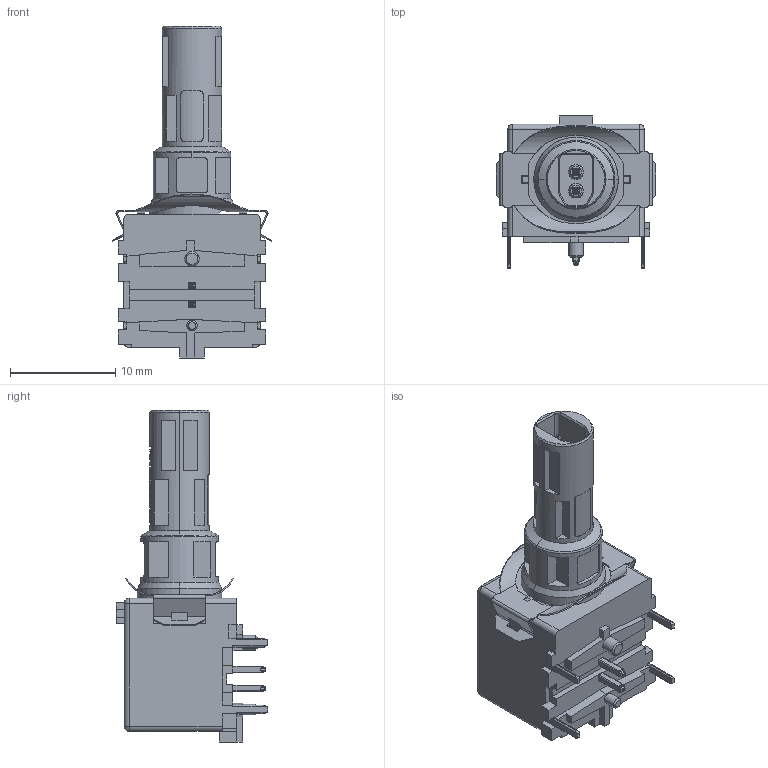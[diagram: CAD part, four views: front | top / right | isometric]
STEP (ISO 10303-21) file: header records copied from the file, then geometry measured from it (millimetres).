
FILE_DESCRIPTION(('Creo Elements/Direct Modeling STEP Export'),'2;1');
FILE_NAME('C:/Temp/JobServerData/JobServer Files/5eda715d-1d02-4894-b261-36173a9d9e44/work/output/model.stp','2022-03-29T11:19:07',(''),(''),'Creo Elements/Direct Modeling STEP processor for AP214 (Solid Model)','Creo Elements/Direct Modeling 20.1D 10-Oct-2020 (C) Parametric Technology GmbH','');
FILE_SCHEMA(('AUTOMOTIVE_DESIGN { 1 0 10303 214 1 1 1 1 }'));
Length unit declared in the file: millimetre
Products named in the file (2): SPE-T1-M8MRM-90.1
Assembly tree (1 placements, depth 2):
  SPE-T1-M8MRM-90.1
    SPE-T1-M8MRM-90.1
Bounding box: 15.19 x 14.45 x 31.6 mm (x, y, z)
Volume: 2198 mm3; surface area: 1733.4 mm2
Topology: 1 solids, 1 shells, 724 faces, 1953 edges, 1256 vertices
Faces by surface type: plane 448, cylinder 139, bspline 76, extrusion 31, cone 24, sphere 4, torus 2
Entity records: 37654 total; most frequent: CARTESIAN_POINT 14830, ORIENTED_EDGE 3898, DIRECTION 3087, EDGE_CURVE 1949, VERTEX_POINT 1256, VECTOR 1251, LINE 1220, AXIS2_PLACEMENT_3D 918
